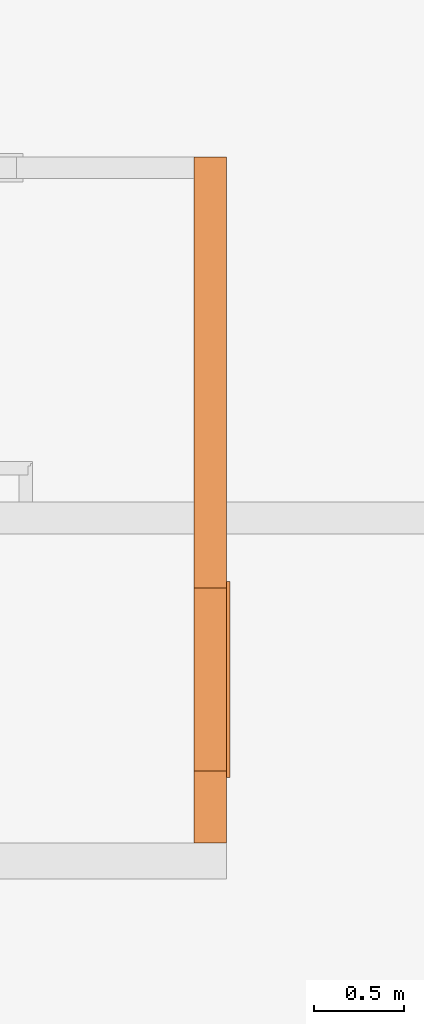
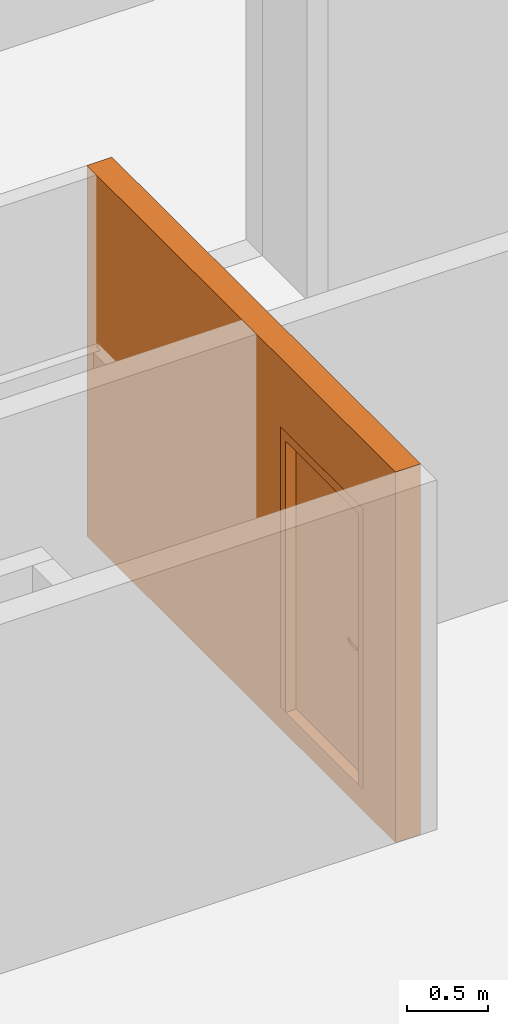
# One storey, part 55 of 66: 2 proxies, 1 opening.
"""IFC2X3 building model written with IfcOpenShell, lengths in millimetres."""

from ifc_helpers import new_model, entity, si_unit, converted_unit, derived_unit, money_unit, direction, frame, origin_with_axes, origin_2d_with_axis, place, context, subcontext, project, spatial, rectangle, extrude, open_shell, faceted_brep, surface_model, material, type_object, element, fill, save


model = new_model("IFC2X3")

# Units and contexts
model_context = context("Model", 3, precision=0.01, world=origin_with_axes(), true_north=direction((0.34421633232, 0.938890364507)))
body_context = subcontext(model_context, "Body", "Model", "MODEL_VIEW")
ifc_project = project(units=[si_unit("LENGTHUNIT", "METRE", prefix="MILLI"), si_unit("AREAUNIT", "SQUARE_METRE"), si_unit("VOLUMEUNIT", "CUBIC_METRE"), converted_unit("PLANEANGLEUNIT", "DEGREE", entity("IfcPlaneAngleMeasure", 0.0174532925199), si_unit("PLANEANGLEUNIT", "RADIAN"), dimensions=[0, 0, 0, 0, 0, 0, 0]), si_unit("SOLIDANGLEUNIT", "STERADIAN"), money_unit("USD"), converted_unit("TIMEUNIT", "Year", entity("IfcTimeMeasure", 31556926.0), si_unit("TIMEUNIT", "SECOND"), dimensions=[0, 0, 1, 0, 0, 0, 0]), si_unit("MASSUNIT", "GRAM", prefix="KILO"), si_unit("THERMODYNAMICTEMPERATUREUNIT", "DEGREE_CELSIUS"), si_unit("LUMINOUSINTENSITYUNIT", "LUMEN"), si_unit("ENERGYUNIT", "JOULE", prefix="MEGA"), derived_unit("THERMALCONDUCTANCEUNIT", [(si_unit("POWERUNIT", "WATT"), 1), (si_unit("LENGTHUNIT", "METRE"), -1), (si_unit("THERMODYNAMICTEMPERATUREUNIT", "KELVIN"), -1)]), derived_unit("SPECIFICHEATCAPACITYUNIT", [(si_unit("ENERGYUNIT", "JOULE"), 1), (si_unit("MASSUNIT", "GRAM", prefix="KILO"), -1), (si_unit("THERMODYNAMICTEMPERATUREUNIT", "KELVIN"), -1)]), derived_unit("MASSDENSITYUNIT", [(si_unit("MASSUNIT", "GRAM", prefix="KILO"), 1), (si_unit("VOLUMEUNIT", "CUBIC_METRE"), -1)])], contexts=[model_context])

# Site, building, storey
site_placement = place(None, origin_with_axes())
site = spatial("IfcSite", under=ifc_project, at=site_placement, Name="USTRONIE MORSKIE", CompositionType="ELEMENT")
building_placement = place(site_placement, origin_with_axes())
building = spatial("IfcBuilding", under=site, at=building_placement, Name="Budynek", CompositionType="ELEMENT")
storey_placement = place(building_placement, frame((0.0, 0.0, 10000.0), z_axis=(0.0, 0.0, 1.0), x_axis=(1.0, 0.0, 0.0)))
storey = spatial("IfcBuildingStorey", under=building, at=storey_placement, Name="PIĘTRO 3", CompositionType="ELEMENT", Elevation=10000.0)

# Proxies, opening
ifc_material = material(Name="Bloczki silikatowe")
building_element_proxy_type_1 = type_object("IfcBuildingElementProxyType", Name="Bloczki silikatowe 180", PredefinedType="NOTDEFINED")
proxy_1_placement = place(storey_placement, frame((362757.920874, 742661.199128, -160.0), z_axis=(0.0, 0.0, 1.0), x_axis=(0.0, -1.0, 0.0)))
proxy_1 = element("IfcBuildingElementProxy", 1, at=proxy_1_placement, inside=storey, type_object=building_element_proxy_type_1, material=ifc_material, Name="SW-02", context=body_context, shape_type="Brep", body=[
    faceted_brep([(-59.9999999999, -90.0, 2800.0), (3760.00009205, -90.0, 2800.0), (3760.00009205, 90.0, 2800.0), (-59.9999999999, 90.0, 2800.0), (-59.9999999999, -90.0, 0.0), (3760.00009205, -90.0, 0.0), (3760.00009205, 90.0, 0.0), (-59.9999999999, 90.0, 0.0)], [[[0, 1, 2, 3]], [[4, 5, 1, 0]], [[6, 2, 1, 5]], [[3, 2, 6, 7]], [[7, 4, 0, 3]], [[7, 6, 5, 4]]]),
])
opening_placement = place(proxy_1_placement, frame((2850.01965208, 0.0, 160.0), z_axis=(0.0, 0.0, 1.0), x_axis=(1.0, 0.0, 0.0)))
opening = element("IfcOpeningElement", 2, at=opening_placement, cuts=proxy_1, Name="Dw.2", context=body_context, shape_type="SweptSolid", body=[
    extrude(rectangle(XDim=1020.0, YDim=2120.0, at=origin_2d_with_axis()), frame((0.0, 180.0, 1060.0), z_axis=(0.0, 1.0, 0.0), x_axis=(-1.0, 0.0, 0.0)), (0.0, 0.0, -1.0), 540.0),
    extrude(rectangle(XDim=1094.0, YDim=2227.0, at=origin_2d_with_axis()), frame((0.0, 90.0, 1113.5), z_axis=(0.0, 1.0, 0.0), x_axis=(-1.0, 0.0, 0.0)), (0.0, 0.0, 1.0), 180.0),
])
building_element_proxy_type_2 = type_object("IfcBuildingElementProxyType", Name="Drzwi 23", PredefinedType="NOTDEFINED")
proxy_2_placement = place(opening_placement, frame((-450.0, 0.0, 0.0), z_axis=(0.0, 0.0, 1.0), x_axis=(1.0, 0.0, 0.0)))
proxy_2 = element("IfcBuildingElementProxy", 3, at=proxy_2_placement, inside=storey, type_object=building_element_proxy_type_2, Name="Dw.2", context=body_context, shape_type="SurfaceModel", body=[
    faceted_brep([(960.0, 25.0, 0.0), (935.0, 25.0, 0.0), (935.0, 90.0, 0.0), (960.0, 90.0, 0.0), (960.0, 25.0, 2120.0), (935.0, 25.0, 2095.0), (935.0, 90.0, 2095.0), (960.0, 90.0, 2120.0)], [[[0, 1, 2, 3]], [[0, 4, 5, 1]], [[1, 5, 6, 2]], [[3, 2, 6, 7]], [[4, 0, 3, 7]], [[5, 4, 7, 6]]]),
    faceted_brep([(-59.9999999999, 25.0, 2120.0), (-35.0, 25.0, 2095.0), (-35.0, 90.0, 2095.0), (-59.9999999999, 90.0, 2120.0), (-59.9999999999, 25.0, 0.0), (-35.0, 25.0, 0.0), (-35.0, 90.0, 0.0), (-59.9999999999, 90.0, 0.0)], [[[0, 1, 2, 3]], [[0, 4, 5, 1]], [[1, 5, 6, 2]], [[3, 2, 6, 7]], [[4, 0, 3, 7]], [[5, 4, 7, 6]]]),
    faceted_brep([(935.0, 25.0, 2095.0), (-35.0, 25.0, 2095.0), (-35.0, 90.0, 2095.0), (935.0, 90.0, 2095.0), (960.0, 25.0, 2120.0), (-59.9999999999, 25.0, 2120.0), (-59.9999999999, 90.0, 2120.0), (960.0, 90.0, 2120.0)], [[[0, 1, 2, 3]], [[0, 4, 5, 1]], [[1, 5, 6, 2]], [[3, 2, 6, 7]], [[4, 0, 3, 7]], [[5, 4, 7, 6]]]),
    faceted_brep([(997.0, 109.0, 0.0), (997.0, 90.0, 0.0), (947.0, 90.0, 0.0), (947.0, 109.0, 0.0), (997.0, 109.0, 2227.0), (997.0, 90.0, 2227.0), (947.0, 90.0, 2107.0), (947.0, 109.0, 2107.0)], [[[0, 1, 2, 3]], [[4, 5, 1, 0]], [[1, 5, 6, 2]], [[3, 2, 6, 7]], [[0, 3, 7, 4]], [[7, 6, 5, 4]]]),
    faceted_brep([(-97.0, 109.0, 2227.0), (-97.0, 90.0, 2227.0), (-46.9999999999, 90.0, 2107.0), (-46.9999999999, 109.0, 2107.0), (-97.0, 109.0, 0.0), (-97.0, 90.0, 0.0), (-46.9999999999, 90.0, 0.0), (-46.9999999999, 109.0, 0.0)], [[[0, 1, 2, 3]], [[4, 5, 1, 0]], [[1, 5, 6, 2]], [[3, 2, 6, 7]], [[0, 3, 7, 4]], [[7, 6, 5, 4]]]),
    faceted_brep([(997.0, 109.0, 2227.0), (997.0, 90.0, 2227.0), (947.0, 90.0, 2107.0), (947.0, 109.0, 2107.0), (-97.0, 109.0, 2227.0), (-97.0, 90.0, 2227.0), (-46.9999999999, 90.0, 2107.0), (-46.9999999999, 109.0, 2107.0)], [[[0, 1, 2, 3]], [[4, 5, 1, 0]], [[1, 5, 6, 2]], [[3, 2, 6, 7]], [[0, 3, 7, 4]], [[7, 6, 5, 4]]]),
    faceted_brep([(900.0, -15.0, 0.0), (900.0, -90.0, 0.0), (900.0, -90.0, 2050.0), (900.0, -15.0, 2050.0), (912.0, -15.0, 0.0), (912.0, 25.0, 0.0), (960.0, 25.0, 0.0), (960.0, -90.0, 0.0), (960.0, -90.0, 2050.0), (912.0, -15.0, 2050.0), (960.0, 25.0, 2050.0), (912.0, 25.0, 2050.0)], [[[0, 1, 2, 3]], [[4, 5, 6, 7, 1, 0]], [[1, 7, 8, 2]], [[9, 3, 2, 8, 10, 11]], [[9, 4, 0, 3]], [[11, 5, 4, 9]], [[11, 10, 6, 5]], [[6, 10, 8, 7]]]),
    faceted_brep([(-11.9999999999, -15.0, 2050.0), (-11.9999999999, 25.0, 2050.0), (-59.9999999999, 25.0, 2050.0), (-59.9999999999, -90.0, 2050.0), (0.0, -90.0, 2050.0), (0.0, -15.0, 2050.0), (-11.9999999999, -15.0, 0.0), (-11.9999999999, 25.0, 0.0), (-59.9999999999, 25.0, 0.0), (-59.9999999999, -90.0, 0.0), (0.0, -90.0, 0.0), (0.0, -15.0, 0.0)], [[[0, 1, 2, 3, 4, 5]], [[0, 6, 7, 1]], [[7, 8, 2, 1]], [[2, 8, 9, 3]], [[3, 9, 10, 4]], [[5, 4, 10, 11]], [[5, 11, 6, 0]], [[6, 11, 10, 9, 8, 7]]]),
    faceted_brep([(912.0, 25.0, 2062.0), (-11.9999999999, 25.0, 2062.0), (-11.9999999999, 25.0, 2050.0), (-59.9999999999, 25.0, 2050.0), (-59.9999999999, 25.0, 2120.0), (960.0, 25.0, 2120.0), (960.0, 25.0, 2050.0), (912.0, 25.0, 2050.0), (912.0, -15.0, 2062.0), (-11.9999999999, -15.0, 2062.0), (-11.9999999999, -15.0, 2050.0), (0.0, -15.0, 2050.0), (0.0, -90.0, 2050.0), (-59.9999999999, -90.0, 2050.0), (-59.9999999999, -90.0, 2120.0), (960.0, -90.0, 2120.0), (960.0, -90.0, 2050.0), (912.0, -15.0, 2050.0), (900.0, -90.0, 2050.0), (900.0, -15.0, 2050.0)], [[[0, 1, 2, 3, 4, 5, 6, 7]], [[0, 8, 9, 1]], [[1, 9, 10, 2]], [[10, 11, 12, 13, 3, 2]], [[4, 3, 13, 14]], [[5, 4, 14, 15]], [[6, 5, 15, 16]], [[17, 7, 6, 16, 18, 19]], [[7, 17, 8, 0]], [[10, 9, 8, 17, 19, 11]], [[19, 18, 12, 11]], [[12, 18, 16, 15, 14, 13]]]),
    faceted_brep([(890.5, -15.0, 1060.0), (833.5, -15.0, 1060.0), (833.5, -18.0, 1060.0), (890.5, -18.0, 1060.0), (890.5, -15.0, 870.0), (833.5, -15.0, 870.0), (833.5, -18.0, 870.0), (890.5, -18.0, 870.0)], [[[0, 1, 2, 3]], [[0, 4, 5, 1]], [[1, 5, 6, 2]], [[3, 2, 6, 7]], [[4, 0, 3, 7]], [[5, 4, 7, 6]]]),
    faceted_brep([(862.0, -79.0, 990.0), (867.0, -79.0, 991.339745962), (867.0, -86.0, 991.339745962), (862.0, -86.0, 990.0), (837.0, -79.0, 990.0), (837.0, -79.0, 1010.0), (862.0, -79.0, 1010.0), (867.0, -79.0, 1008.66025404), (870.660254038, -79.0, 1005.0), (872.0, -79.0, 1000.0), (870.660254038, -79.0, 995.0), (870.660254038, -86.0, 995.0), (872.0, -86.0, 1000.0), (870.660254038, -86.0, 1005.0), (867.0, -86.0, 1008.66025404), (862.0, -86.0, 1010.0), (837.0, -86.0, 1010.0), (837.0, -86.0, 990.0)], [[[0, 1, 2, 3]], [[0, 4, 5, 6, 7, 8, 9, 10, 1]], [[1, 10, 11, 2]], [[3, 2, 11, 12, 13, 14, 15, 16, 17]], [[4, 0, 3, 17]], [[5, 4, 17, 16]], [[6, 5, 16, 15]], [[7, 6, 15, 14]], [[8, 7, 14, 13]], [[9, 8, 13, 12]], [[10, 9, 12, 11]]]),
    surface_model("IfcShellBasedSurfaceModel", [(837.0, -79.0, 1010.0), (823.901717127, -79.0, 1009.60730092), (823.596090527, -86.0, 1009.60730092), (837.0, -79.0, 990.0), (823.901717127, -79.0, 990.392699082), (796.890283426, -83.6635446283, 1008.82190275), (837.0, -86.0, 1010.0), (837.0, -86.0, 990.0), (797.804837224, -76.716818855, 991.178097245), (797.804837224, -76.716818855, 1008.82190275), (796.890283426, -83.6635446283, 991.178097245), (823.596090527, -86.0, 990.392699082), (772.006256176, -72.1678329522, 991.963495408), (772.006256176, -72.1678329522, 1008.03650459), (770.489735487, -79.0084157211, 1008.03650459), (770.489735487, -79.0084157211, 991.963495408), (746.702316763, -65.3876628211, 992.748893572), (746.702316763, -65.3876628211, 1007.25110643), (744.59537082, -72.0700416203, 1007.25110643), (744.59537082, -72.0700416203, 992.748893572), (738.829442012, -62.5221707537, 993.0), (738.829442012, -62.5221707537, 1007.0), (736.538795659, -69.1376880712, 1007.0), (736.538795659, -69.1376880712, 993.0)], [open_shell([[[0, 1, 2]], [[0, 3, 4, 1]], [[1, 5, 2]], [[0, 2, 6]], [[4, 3, 7]], [[1, 4, 8, 9]], [[1, 9, 5]], [[2, 5, 10, 11]], [[6, 2, 11, 7]], [[4, 7, 11]], [[8, 4, 11]], [[9, 8, 12, 13]], [[9, 14, 5]], [[5, 14, 15, 10]], [[8, 11, 10]], [[12, 8, 10]], [[13, 12, 16, 17]], [[9, 13, 14]], [[14, 18, 19, 15]], [[12, 10, 15]], [[16, 12, 15]], [[17, 16, 20, 21]], [[13, 17, 18]], [[13, 18, 14]], [[18, 22, 23, 19]], [[16, 15, 19]], [[20, 16, 19]], [[21, 20, 23, 22]], [[17, 21, 22]], [[17, 22, 18]], [[20, 19, 23]]])]),
    faceted_brep([(851.607695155, -28.0, 994.0), (850.0, -28.0, 1000.0), (849.0, -18.0, 1000.0), (850.741669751, -18.0, 993.5), (856.0, -28.0, 989.607695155), (862.0, -28.0, 988.0), (868.0, -28.0, 989.607695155), (872.392304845, -28.0, 994.0), (874.0, -28.0, 1000.0), (872.392304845, -28.0, 1006.0), (868.0, -28.0, 1010.39230485), (862.0, -28.0, 1012.0), (856.0, -28.0, 1010.39230485), (851.607695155, -28.0, 1006.0), (850.741669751, -18.0, 1006.5), (855.5, -18.0, 1011.25833025), (862.0, -18.0, 1013.0), (868.5, -18.0, 1011.25833025), (873.258330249, -18.0, 1006.5), (875.0, -18.0, 1000.0), (873.258330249, -18.0, 993.5), (868.5, -18.0, 988.741669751), (862.0, -18.0, 987.0), (855.5, -18.0, 988.741669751)], [[[0, 1, 2, 3]], [[1, 0, 4, 5, 6, 7, 8, 9, 10, 11, 12, 13]], [[1, 13, 14, 2]], [[2, 14, 15, 16, 17, 18, 19, 20, 21, 22, 23, 3]], [[4, 0, 3, 23]], [[5, 4, 23, 22]], [[6, 5, 22, 21]], [[7, 6, 21, 20]], [[8, 7, 20, 19]], [[9, 8, 19, 18]], [[10, 9, 18, 17]], [[11, 10, 17, 16]], [[12, 11, 16, 15]], [[13, 12, 15, 14]]]),
    faceted_brep([(844.679491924, -22.0, 895.0), (842.0, -22.0, 905.0), (840.0, -18.0, 905.0), (842.947441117, -18.0, 894.0), (852.0, -22.0, 887.679491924), (862.0, -22.0, 885.0), (872.0, -22.0, 887.679491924), (879.320508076, -22.0, 895.0), (882.0, -22.0, 905.0), (879.320508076, -22.0, 915.0), (872.0, -22.0, 922.320508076), (862.0, -22.0, 925.0), (852.0, -22.0, 922.320508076), (844.679491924, -22.0, 915.0), (842.947441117, -18.0, 916.0), (851.0, -18.0, 924.052558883), (862.0, -18.0, 927.0), (873.0, -18.0, 924.052558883), (881.052558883, -18.0, 916.0), (884.0, -18.0, 905.0), (881.052558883, -18.0, 894.0), (873.0, -18.0, 885.947441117), (862.0, -18.0, 883.0), (851.0, -18.0, 885.947441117)], [[[0, 1, 2, 3]], [[1, 0, 4, 5, 6, 7, 8, 9, 10, 11, 12, 13]], [[1, 13, 14, 2]], [[2, 14, 15, 16, 17, 18, 19, 20, 21, 22, 23, 3]], [[4, 0, 3, 23]], [[5, 4, 23, 22]], [[6, 5, 22, 21]], [[7, 6, 21, 20]], [[8, 7, 20, 19]], [[9, 8, 19, 18]], [[10, 9, 18, 17]], [[11, 10, 17, 16]], [[12, 11, 16, 15]], [[13, 12, 15, 14]]]),
    faceted_brep([(857.050252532, -23.9999999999, 909.050252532), (855.0, -23.9999999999, 914.0), (854.0, -22.0, 914.0), (856.343145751, -22.0, 908.343145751), (862.0, -23.9999999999, 907.0), (866.949747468, -23.9999999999, 909.050252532), (869.0, -23.9999999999, 914.0), (866.949747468, -23.9999999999, 918.949747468), (862.0, -23.9999999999, 921.0), (857.050252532, -23.9999999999, 918.949747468), (856.343145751, -22.0, 919.656854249), (862.0, -22.0, 922.0), (867.65685425, -22.0, 919.656854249), (870.0, -22.0, 914.0), (867.65685425, -22.0, 908.343145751), (862.0, -22.0, 906.0)], [[[0, 1, 2, 3]], [[1, 0, 4, 5, 6, 7, 8, 9]], [[1, 9, 10, 2]], [[2, 10, 11, 12, 13, 14, 15, 3]], [[4, 0, 3, 15]], [[5, 4, 15, 14]], [[6, 5, 14, 13]], [[7, 6, 13, 12]], [[8, 7, 12, 11]], [[9, 8, 11, 10]]]),
    faceted_brep([(862.0, -28.0, 1010.0), (857.0, -28.0, 1008.66025404), (857.0, -79.0, 1008.66025404), (862.0, -79.0, 1010.0), (867.0, -28.0, 1008.66025404), (870.660254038, -28.0, 1005.0), (872.0, -28.0, 1000.0), (870.660254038, -28.0, 995.0), (867.0, -28.0, 991.339745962), (862.0, -28.0, 990.0), (857.0, -28.0, 991.339745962), (853.339745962, -28.0, 995.0), (852.0, -28.0, 1000.0), (853.339745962, -28.0, 1005.0), (853.339745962, -79.0, 1005.0), (852.0, -79.0, 1000.0), (853.339745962, -79.0, 995.0), (857.0, -79.0, 991.339745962), (862.0, -79.0, 990.0), (867.0, -79.0, 991.339745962), (870.660254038, -79.0, 995.0), (872.0, -79.0, 1000.0), (870.660254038, -79.0, 1005.0), (867.0, -79.0, 1008.66025404)], [[[0, 1, 2, 3]], [[0, 4, 5, 6, 7, 8, 9, 10, 11, 12, 13, 1]], [[1, 13, 14, 2]], [[3, 2, 14, 15, 16, 17, 18, 19, 20, 21, 22, 23]], [[4, 0, 3, 23]], [[5, 4, 23, 22]], [[6, 5, 22, 21]], [[7, 6, 21, 20]], [[8, 7, 20, 19]], [[9, 8, 19, 18]], [[10, 9, 18, 17]], [[11, 10, 17, 16]], [[12, 11, 16, 15]], [[13, 12, 15, 14]]]),
    faceted_brep([(890.5, 25.0, 1060.0), (890.5, 28.0, 1060.0), (833.5, 28.0, 1060.0), (833.5, 25.0, 1060.0), (890.5, 25.0, 870.0), (890.5, 28.0, 870.0), (833.5, 28.0, 870.0), (833.5, 25.0, 870.0)], [[[0, 1, 2, 3]], [[4, 5, 1, 0]], [[1, 5, 6, 2]], [[3, 2, 6, 7]], [[0, 3, 7, 4]], [[7, 6, 5, 4]]]),
    faceted_brep([(862.0, 89.0000000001, 990.0), (862.0, 96.0000000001, 990.0), (867.0, 96.0000000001, 991.339745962), (867.0, 89.0000000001, 991.339745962), (837.0, 89.0000000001, 990.0), (837.0, 96.0000000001, 990.0), (837.0, 96.0000000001, 1010.0), (862.0, 96.0000000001, 1010.0), (867.0, 96.0000000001, 1008.66025404), (870.660254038, 96.0000000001, 1005.0), (872.0, 96.0000000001, 1000.0), (870.660254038, 96.0000000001, 995.0), (870.660254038, 89.0000000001, 995.0), (872.0, 89.0000000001, 1000.0), (870.660254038, 89.0000000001, 1005.0), (867.0, 89.0000000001, 1008.66025404), (862.0, 89.0000000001, 1010.0), (837.0, 89.0000000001, 1010.0)], [[[0, 1, 2, 3]], [[4, 5, 1, 0]], [[1, 5, 6, 7, 8, 9, 10, 11, 2]], [[3, 2, 11, 12]], [[0, 3, 12, 13, 14, 15, 16, 17, 4]], [[17, 6, 5, 4]], [[16, 7, 6, 17]], [[15, 8, 7, 16]], [[14, 9, 8, 15]], [[13, 10, 9, 14]], [[12, 11, 10, 13]]]),
    surface_model("IfcShellBasedSurfaceModel", [(837.0, 89.0000000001, 1010.0), (823.596090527, 96.0000000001, 1009.60730092), (823.901717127, 89.0000000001, 1009.60730092), (837.0, 96.0000000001, 1010.0), (796.890283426, 93.6635446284, 1008.82190275), (823.901717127, 89.0000000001, 990.392699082), (837.0, 89.0000000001, 990.0), (837.0, 96.0000000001, 990.0), (823.596090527, 96.0000000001, 990.392699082), (796.890283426, 93.6635446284, 991.178097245), (797.804837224, 86.7168188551, 1008.82190275), (797.804837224, 86.7168188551, 991.178097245), (770.489735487, 89.0084157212, 991.963495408), (770.489735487, 89.0084157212, 1008.03650459), (772.006256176, 82.1678329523, 1008.03650459), (772.006256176, 82.1678329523, 991.963495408), (744.59537082, 82.0700416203, 992.748893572), (744.59537082, 82.0700416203, 1007.25110643), (746.702316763, 75.3876628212, 1007.25110643), (746.702316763, 75.3876628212, 992.748893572), (736.538795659, 79.1376880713, 993.0), (736.538795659, 79.1376880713, 1007.0), (738.829442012, 72.5221707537, 1007.0), (738.829442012, 72.5221707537, 993.0)], [open_shell([[[0, 1, 2]], [[0, 3, 1]], [[2, 1, 4]], [[0, 2, 5, 6]], [[3, 7, 8, 1]], [[1, 8, 9, 4]], [[2, 4, 10]], [[2, 10, 11, 5]], [[5, 7, 6]], [[5, 8, 7]], [[11, 9, 8]], [[4, 9, 12, 13]], [[10, 4, 13]], [[10, 14, 15, 11]], [[11, 8, 5]], [[15, 9, 11]], [[15, 12, 9]], [[13, 12, 16, 17]], [[10, 13, 14]], [[14, 18, 19, 15]], [[19, 12, 15]], [[19, 16, 12]], [[17, 16, 20, 21]], [[14, 13, 17]], [[14, 17, 18]], [[18, 22, 23, 19]], [[23, 16, 19]], [[23, 20, 16]], [[22, 21, 20, 23]], [[18, 17, 21]], [[18, 21, 22]]])]),
    faceted_brep([(851.607695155, 38.0, 994.0), (850.741669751, 28.0, 993.5), (849.0, 28.0, 1000.0), (850.0, 38.0, 1000.0), (856.0, 38.0, 989.607695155), (855.5, 28.0, 988.741669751), (862.0, 28.0, 987.0), (868.5, 28.0, 988.741669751), (873.258330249, 28.0, 993.5), (875.0, 28.0, 1000.0), (873.258330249, 28.0, 1006.5), (868.5, 28.0, 1011.25833025), (862.0, 28.0, 1013.0), (855.5, 28.0, 1011.25833025), (850.741669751, 28.0, 1006.5), (851.607695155, 38.0, 1006.0), (856.0, 38.0, 1010.39230485), (862.0, 38.0, 1012.0), (868.0, 38.0, 1010.39230485), (872.392304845, 38.0, 1006.0), (874.0, 38.0, 1000.0), (872.392304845, 38.0, 994.0), (868.0, 38.0, 989.607695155), (862.0, 38.0, 988.0)], [[[0, 1, 2, 3]], [[4, 5, 1, 0]], [[2, 1, 5, 6, 7, 8, 9, 10, 11, 12, 13, 14]], [[3, 2, 14, 15]], [[3, 15, 16, 17, 18, 19, 20, 21, 22, 23, 4, 0]], [[23, 6, 5, 4]], [[22, 7, 6, 23]], [[21, 8, 7, 22]], [[20, 9, 8, 21]], [[19, 10, 9, 20]], [[18, 11, 10, 19]], [[17, 12, 11, 18]], [[16, 13, 12, 17]], [[15, 14, 13, 16]]]),
    faceted_brep([(844.679491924, 32.0, 895.0), (842.947441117, 28.0, 894.0), (840.0, 28.0, 905.0), (842.0, 32.0, 905.0), (852.0, 32.0, 887.679491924), (851.0, 28.0, 885.947441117), (862.0, 28.0, 883.0), (873.0, 28.0, 885.947441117), (881.052558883, 28.0, 894.0), (884.0, 28.0, 905.0), (881.052558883, 28.0, 916.0), (873.0, 28.0, 924.052558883), (862.0, 28.0, 927.0), (851.0, 28.0, 924.052558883), (842.947441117, 28.0, 916.0), (844.679491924, 32.0, 915.0), (852.0, 32.0, 922.320508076), (862.0, 32.0, 925.0), (872.0, 32.0, 922.320508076), (879.320508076, 32.0, 915.0), (882.0, 32.0, 905.0), (879.320508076, 32.0, 895.0), (872.0, 32.0, 887.679491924), (862.0, 32.0, 885.0)], [[[0, 1, 2, 3]], [[4, 5, 1, 0]], [[2, 1, 5, 6, 7, 8, 9, 10, 11, 12, 13, 14]], [[3, 2, 14, 15]], [[3, 15, 16, 17, 18, 19, 20, 21, 22, 23, 4, 0]], [[23, 6, 5, 4]], [[22, 7, 6, 23]], [[21, 8, 7, 22]], [[20, 9, 8, 21]], [[19, 10, 9, 20]], [[18, 11, 10, 19]], [[17, 12, 11, 18]], [[16, 13, 12, 17]], [[15, 14, 13, 16]]]),
    faceted_brep([(857.050252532, 34.0, 909.050252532), (856.343145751, 32.0, 908.343145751), (854.0, 32.0, 914.0), (855.0, 34.0, 914.0), (862.0, 34.0, 907.0), (862.0, 32.0, 906.0), (867.65685425, 32.0, 908.343145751), (870.0, 32.0, 914.0), (867.65685425, 32.0, 919.656854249), (862.0, 32.0, 922.0), (856.343145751, 32.0, 919.656854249), (857.050252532, 34.0, 918.949747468), (862.0, 34.0, 921.0), (866.949747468, 34.0, 918.949747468), (869.0, 34.0, 914.0), (866.949747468, 34.0, 909.050252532)], [[[0, 1, 2, 3]], [[4, 5, 1, 0]], [[2, 1, 5, 6, 7, 8, 9, 10]], [[3, 2, 10, 11]], [[3, 11, 12, 13, 14, 15, 4, 0]], [[15, 6, 5, 4]], [[14, 7, 6, 15]], [[13, 8, 7, 14]], [[12, 9, 8, 13]], [[11, 10, 9, 12]]]),
    faceted_brep([(862.0, 38.0, 1010.0), (862.0, 89.0000000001, 1010.0), (857.0, 89.0000000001, 1008.66025404), (857.0, 38.0, 1008.66025404), (867.0, 38.0, 1008.66025404), (867.0, 89.0000000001, 1008.66025404), (870.660254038, 89.0000000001, 1005.0), (872.0, 89.0000000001, 1000.0), (870.660254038, 89.0000000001, 995.0), (867.0, 89.0000000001, 991.339745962), (862.0, 89.0000000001, 990.0), (857.0, 89.0000000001, 991.339745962), (853.339745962, 89.0000000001, 995.0), (852.0, 89.0000000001, 1000.0), (853.339745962, 89.0000000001, 1005.0), (853.339745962, 38.0, 1005.0), (852.0, 38.0, 1000.0), (853.339745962, 38.0, 995.0), (857.0, 38.0, 991.339745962), (862.0, 38.0, 990.0), (867.0, 38.0, 991.339745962), (870.660254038, 38.0, 995.0), (872.0, 38.0, 1000.0), (870.660254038, 38.0, 1005.0)], [[[0, 1, 2, 3]], [[4, 5, 1, 0]], [[1, 5, 6, 7, 8, 9, 10, 11, 12, 13, 14, 2]], [[3, 2, 14, 15]], [[0, 3, 15, 16, 17, 18, 19, 20, 21, 22, 23, 4]], [[23, 6, 5, 4]], [[22, 7, 6, 23]], [[21, 8, 7, 22]], [[20, 9, 8, 21]], [[19, 10, 9, 20]], [[18, 11, 10, 19]], [[17, 12, 11, 18]], [[16, 13, 12, 17]], [[15, 14, 13, 16]]]),
    faceted_brep([(-11.9999999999, 25.0, 0.0), (912.0, 25.0, 0.0), (912.0, -15.0, 0.0), (-11.9999999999, -15.0, 0.0), (-11.9999999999, 25.0, 2062.0), (912.0, 25.0, 2062.0), (912.0, -15.0, 2062.0), (-11.9999999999, -15.0, 2062.0)], [[[0, 1, 2, 3]], [[0, 4, 5, 1]], [[1, 5, 6, 2]], [[3, 2, 6, 7]], [[4, 0, 3, 7]], [[5, 4, 7, 6]]]),
])
fill(opening, proxy_2)

save(model, "model.ifc")
